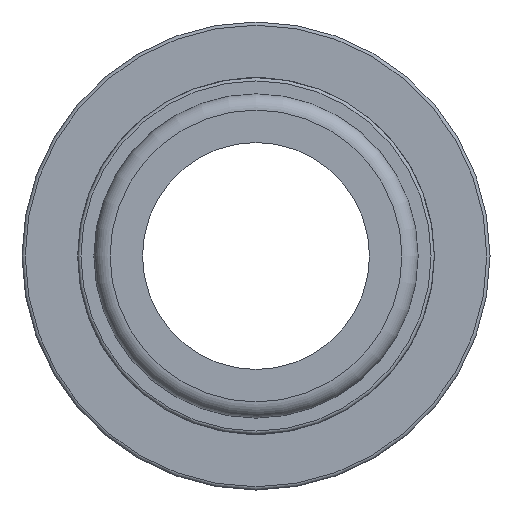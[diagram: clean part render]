
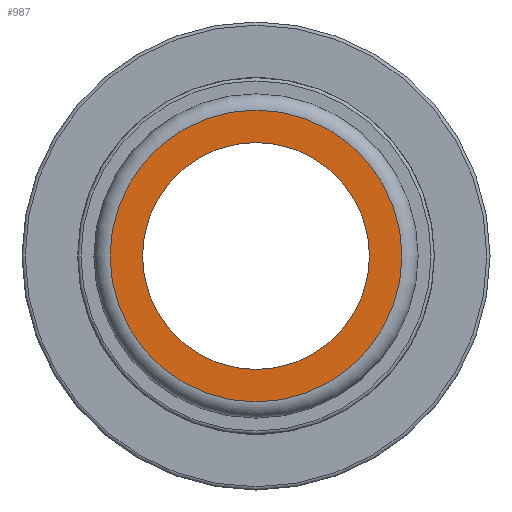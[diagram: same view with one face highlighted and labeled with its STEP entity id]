
A CAD part, left-side view. The second image highlights one B-rep face of the part: STEP entity #987.
In plain terms, the highlighted planar face has unit normal (-1, 0, 0).
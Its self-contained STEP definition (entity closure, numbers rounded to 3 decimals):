
#181=PLANE('',#1101);
#217=FACE_BOUND('',#343,.T.);
#273=FACE_OUTER_BOUND('',#342,.T.);
#342=EDGE_LOOP('',(#913));
#343=EDGE_LOOP('',(#914));
#402=CIRCLE('',#1099,21.511);
#404=CIRCLE('',#1102,16.731);
#500=VERTEX_POINT('',#1872);
#502=VERTEX_POINT('',#1877);
#640=EDGE_CURVE('',#500,#500,#402,.T.);
#642=EDGE_CURVE('',#502,#502,#404,.T.);
#913=ORIENTED_EDGE('',*,*,#640,.F.);
#914=ORIENTED_EDGE('',*,*,#642,.T.);
#987=ADVANCED_FACE('',(#273,#217),#181,.T.);
#1099=AXIS2_PLACEMENT_3D('',#1873,#1380,#1381);
#1101=AXIS2_PLACEMENT_3D('',#1876,#1384,#1385);
#1102=AXIS2_PLACEMENT_3D('',#1878,#1386,#1387);
#1380=DIRECTION('center_axis',(1.,0.,0.));
#1381=DIRECTION('ref_axis',(0.,-1.,0.));
#1384=DIRECTION('center_axis',(-1.,0.,0.));
#1385=DIRECTION('ref_axis',(0.,0.,1.));
#1386=DIRECTION('center_axis',(1.,0.,0.));
#1387=DIRECTION('ref_axis',(0.,0.,-1.));
#1872=CARTESIAN_POINT('',(-104.,21.511,0.));
#1873=CARTESIAN_POINT('Origin',(-104.,0.,0.));
#1876=CARTESIAN_POINT('Origin',(-104.,23.901,0.));
#1877=CARTESIAN_POINT('',(-104.,16.731,0.));
#1878=CARTESIAN_POINT('Origin',(-104.,0.,0.));
